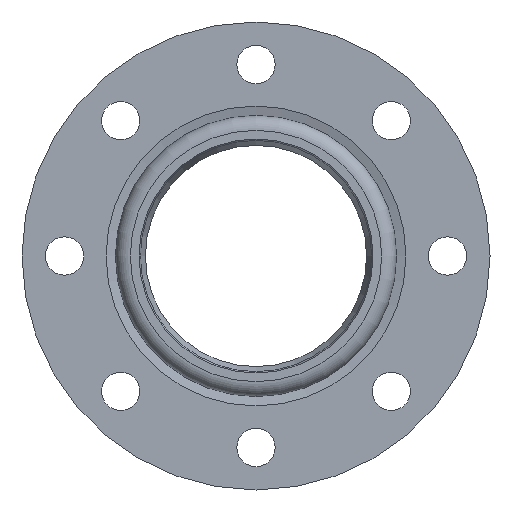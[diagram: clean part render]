
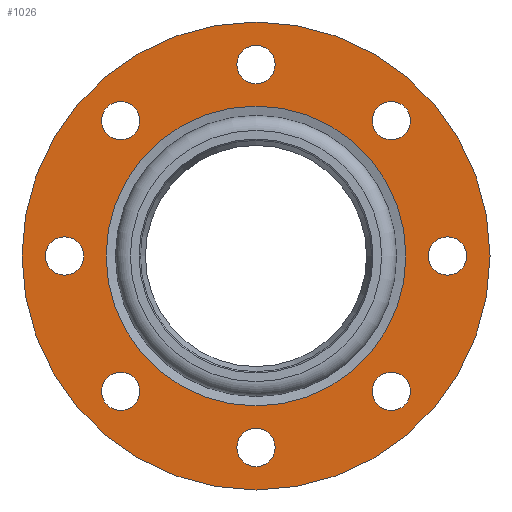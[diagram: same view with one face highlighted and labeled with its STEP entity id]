
A CAD part, left-side view. The second image highlights one B-rep face of the part: STEP entity #1026.
In plain terms, the highlighted planar face has unit normal (-1, 0, 0) as drawn and (0, 0, 1) by its records, which use the part's own axes.
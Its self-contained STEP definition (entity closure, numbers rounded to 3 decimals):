
#655=CARTESIAN_POINT('',(0.0,-70.457,0.));
#656=VERTEX_POINT('',#655);
#657=CARTESIAN_POINT('',(0.0,0.0,0.0));
#658=DIRECTION('',(0.0,0.0,-1.0));
#659=DIRECTION('',(0.0,-1.0,0.0));
#660=AXIS2_PLACEMENT_3D('',#657,#658,#659);
#661=CIRCLE('',#660,70.457);
#662=EDGE_CURVE('',#656,#656,#661,.T.);
#755=CARTESIAN_POINT('',(9.,90.0,0.0));
#756=VERTEX_POINT('',#755);
#757=CARTESIAN_POINT('',(0.,90.0,0.0));
#758=DIRECTION('',(0.0,0.0,-1.0));
#759=DIRECTION('',(-1.0,0.0,0.0));
#760=AXIS2_PLACEMENT_3D('',#757,#758,#759);
#761=CIRCLE('',#760,9.0);
#762=EDGE_CURVE('',#756,#756,#761,.T.);
#783=CARTESIAN_POINT('',(72.64,63.64,0.0));
#784=VERTEX_POINT('',#783);
#785=CARTESIAN_POINT('',(63.64,63.64,0.0));
#786=DIRECTION('',(0.0,0.0,-1.0));
#787=DIRECTION('',(-1.0,0.0,0.0));
#788=AXIS2_PLACEMENT_3D('',#785,#786,#787);
#789=CIRCLE('',#788,9.0);
#790=EDGE_CURVE('',#784,#784,#789,.T.);
#811=CARTESIAN_POINT('',(99.0,0.,0.0));
#812=VERTEX_POINT('',#811);
#813=CARTESIAN_POINT('',(90.0,0.,0.0));
#814=DIRECTION('',(0.0,0.0,-1.0));
#815=DIRECTION('',(-1.0,0.0,0.0));
#816=AXIS2_PLACEMENT_3D('',#813,#814,#815);
#817=CIRCLE('',#816,9.0);
#818=EDGE_CURVE('',#812,#812,#817,.T.);
#839=CARTESIAN_POINT('',(72.64,-63.64,0.0));
#840=VERTEX_POINT('',#839);
#841=CARTESIAN_POINT('',(63.64,-63.64,0.0));
#842=DIRECTION('',(0.0,0.0,-1.0));
#843=DIRECTION('',(-1.0,0.0,0.0));
#844=AXIS2_PLACEMENT_3D('',#841,#842,#843);
#845=CIRCLE('',#844,9.0);
#846=EDGE_CURVE('',#840,#840,#845,.T.);
#867=CARTESIAN_POINT('',(9.,-90.0,0.0));
#868=VERTEX_POINT('',#867);
#869=CARTESIAN_POINT('',(0.,-90.0,0.0));
#870=DIRECTION('',(0.0,0.0,-1.0));
#871=DIRECTION('',(-1.0,0.0,0.0));
#872=AXIS2_PLACEMENT_3D('',#869,#870,#871);
#873=CIRCLE('',#872,9.0);
#874=EDGE_CURVE('',#868,#868,#873,.T.);
#895=CARTESIAN_POINT('',(-54.64,-63.64,0.0));
#896=VERTEX_POINT('',#895);
#897=CARTESIAN_POINT('',(-63.64,-63.64,0.0));
#898=DIRECTION('',(0.0,0.0,-1.0));
#899=DIRECTION('',(-1.0,0.0,0.0));
#900=AXIS2_PLACEMENT_3D('',#897,#898,#899);
#901=CIRCLE('',#900,9.0);
#902=EDGE_CURVE('',#896,#896,#901,.T.);
#923=CARTESIAN_POINT('',(-81.0,0.,0.0));
#924=VERTEX_POINT('',#923);
#925=CARTESIAN_POINT('',(-90.0,0.,0.0));
#926=DIRECTION('',(0.0,0.0,-1.0));
#927=DIRECTION('',(-1.0,0.0,0.0));
#928=AXIS2_PLACEMENT_3D('',#925,#926,#927);
#929=CIRCLE('',#928,9.0);
#930=EDGE_CURVE('',#924,#924,#929,.T.);
#951=CARTESIAN_POINT('',(-54.64,63.64,0.0));
#952=VERTEX_POINT('',#951);
#953=CARTESIAN_POINT('',(-63.64,63.64,0.0));
#954=DIRECTION('',(0.0,0.0,-1.0));
#955=DIRECTION('',(-1.0,0.0,0.0));
#956=AXIS2_PLACEMENT_3D('',#953,#954,#955);
#957=CIRCLE('',#956,9.0);
#958=EDGE_CURVE('',#952,#952,#957,.T.);
#979=CARTESIAN_POINT('',(110.0,0.,0.0));
#980=VERTEX_POINT('',#979);
#981=CARTESIAN_POINT('',(0.0,0.0,0.0));
#982=DIRECTION('',(0.0,0.0,-1.0));
#983=DIRECTION('',(-1.0,0.0,0.0));
#984=AXIS2_PLACEMENT_3D('',#981,#982,#983);
#985=CIRCLE('',#984,110.0);
#986=EDGE_CURVE('',#980,#980,#985,.T.);
#991=CARTESIAN_POINT('',(0.0,0.0,0.0));
#992=DIRECTION('',(0.0,0.0,-1.0));
#993=DIRECTION('',(-1.0,0.0,0.0));
#994=AXIS2_PLACEMENT_3D('',#991,#992,#993);
#995=PLANE('',#994);
#996=ORIENTED_EDGE('',*,*,#986,.F.);
#997=EDGE_LOOP('',(#996));
#998=FACE_OUTER_BOUND('',#997,.T.);
#999=ORIENTED_EDGE('',*,*,#662,.T.);
#1000=EDGE_LOOP('',(#999));
#1001=FACE_BOUND('',#1000,.T.);
#1002=ORIENTED_EDGE('',*,*,#762,.T.);
#1003=EDGE_LOOP('',(#1002));
#1004=FACE_BOUND('',#1003,.T.);
#1005=ORIENTED_EDGE('',*,*,#790,.T.);
#1006=EDGE_LOOP('',(#1005));
#1007=FACE_BOUND('',#1006,.T.);
#1008=ORIENTED_EDGE('',*,*,#818,.T.);
#1009=EDGE_LOOP('',(#1008));
#1010=FACE_BOUND('',#1009,.T.);
#1011=ORIENTED_EDGE('',*,*,#846,.T.);
#1012=EDGE_LOOP('',(#1011));
#1013=FACE_BOUND('',#1012,.T.);
#1014=ORIENTED_EDGE('',*,*,#874,.T.);
#1015=EDGE_LOOP('',(#1014));
#1016=FACE_BOUND('',#1015,.T.);
#1017=ORIENTED_EDGE('',*,*,#902,.T.);
#1018=EDGE_LOOP('',(#1017));
#1019=FACE_BOUND('',#1018,.T.);
#1020=ORIENTED_EDGE('',*,*,#930,.T.);
#1021=EDGE_LOOP('',(#1020));
#1022=FACE_BOUND('',#1021,.T.);
#1023=ORIENTED_EDGE('',*,*,#958,.T.);
#1024=EDGE_LOOP('',(#1023));
#1025=FACE_BOUND('',#1024,.T.);
#1026=ADVANCED_FACE('',(#998,#1001,#1004,#1007,#1010,#1013,#1016,#1019,#1022,#1025),#995,.F.);
